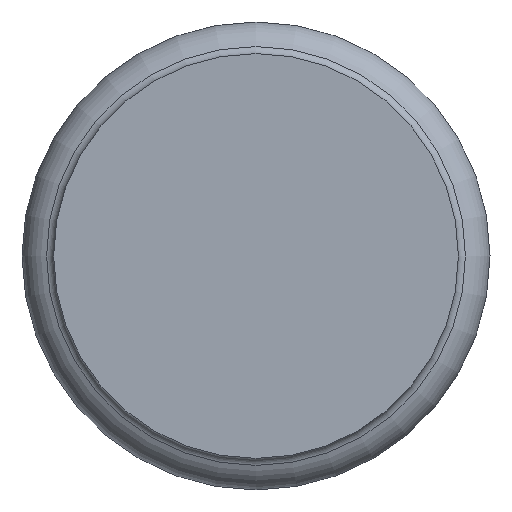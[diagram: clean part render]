
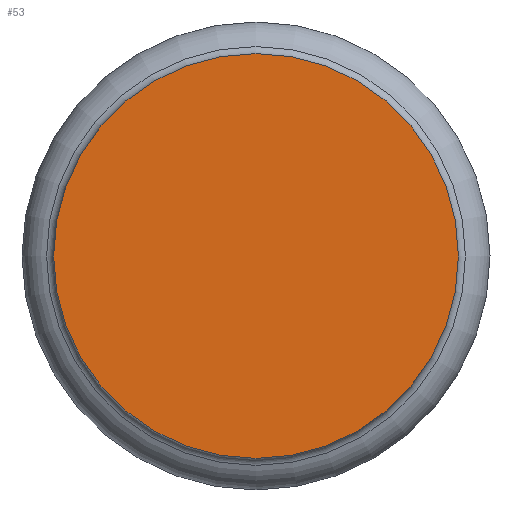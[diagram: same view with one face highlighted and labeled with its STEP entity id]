
A CAD part, front view. The second image highlights one B-rep face of the part: STEP entity #53.
In plain terms, the highlighted planar face has unit normal (0, -1, 0).
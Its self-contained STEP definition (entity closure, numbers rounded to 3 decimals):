
#53=ADVANCED_FACE('',(#78),#80,.F.);
#78=FACE_BOUND('',#79,.T.);
#79=EDGE_LOOP('',(#275));
#80=PLANE('',#81);
#81=AXIS2_PLACEMENT_3D('',#82,#83,#84);
#82=CARTESIAN_POINT('',(0.,0.,0.));
#83=DIRECTION('',(0.,1.,0.));
#84=DIRECTION('',(-1.,0.,0.));
#275=ORIENTED_EDGE('',*,*,#375,.F.);
#375=EDGE_CURVE('',#425,#425,#426,.T.);
#425=VERTEX_POINT('',#513);
#426=CIRCLE('',#514,19.15);
#513=CARTESIAN_POINT('',(0.,0.,19.15));
#514=AXIS2_PLACEMENT_3D('',#515,#516,#517);
#515=CARTESIAN_POINT('',(0.,0.,0.));
#516=DIRECTION('',(0.,1.,0.));
#517=DIRECTION('',(0.,0.,1.));
